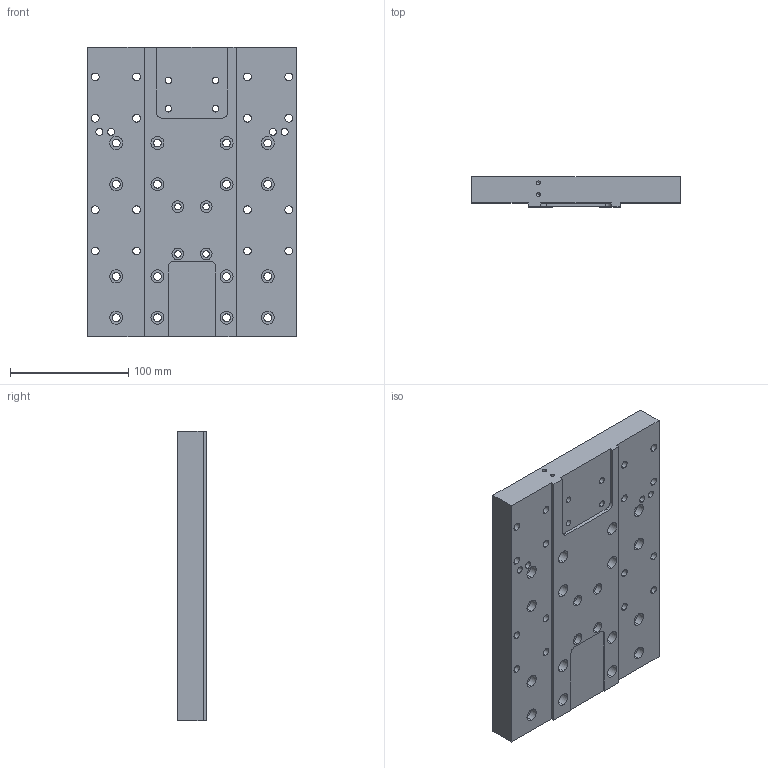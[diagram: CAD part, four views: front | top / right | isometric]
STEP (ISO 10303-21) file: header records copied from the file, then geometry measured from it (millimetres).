
FILE_DESCRIPTION (( 'STEP AP214' ), '1' );
FILE_NAME ('Pos.10 Zwischenplatte.STEP', '2017-03-12T09:24:24', ( 'C.Loibl@hotmail.com' ), ( '' ), 'SwSTEP 2.0', 'SolidWorks 2015', '' );
FILE_SCHEMA (( 'AUTOMOTIVE_DESIGN' ));
Length unit declared in the file: millimetre
Products named in the file (1): Pos.10 Zwischenplatte
Bounding box: 177 x 25 x 245 mm (x, y, z)
Volume: 917346.8 mm3; surface area: 130292.4 mm2
Topology: 1 solids, 1 shells, 247 faces, 608 edges, 402 vertices
Faces by surface type: cylinder 180, plane 63, cone 4
Entity records: 7716 total; most frequent: DIRECTION 1460, CARTESIAN_POINT 1254, ORIENTED_EDGE 1208, AXIS2_PLACEMENT_3D 608, EDGE_CURVE 604, VERTEX_POINT 402, EDGE_LOOP 378, CIRCLE 360
